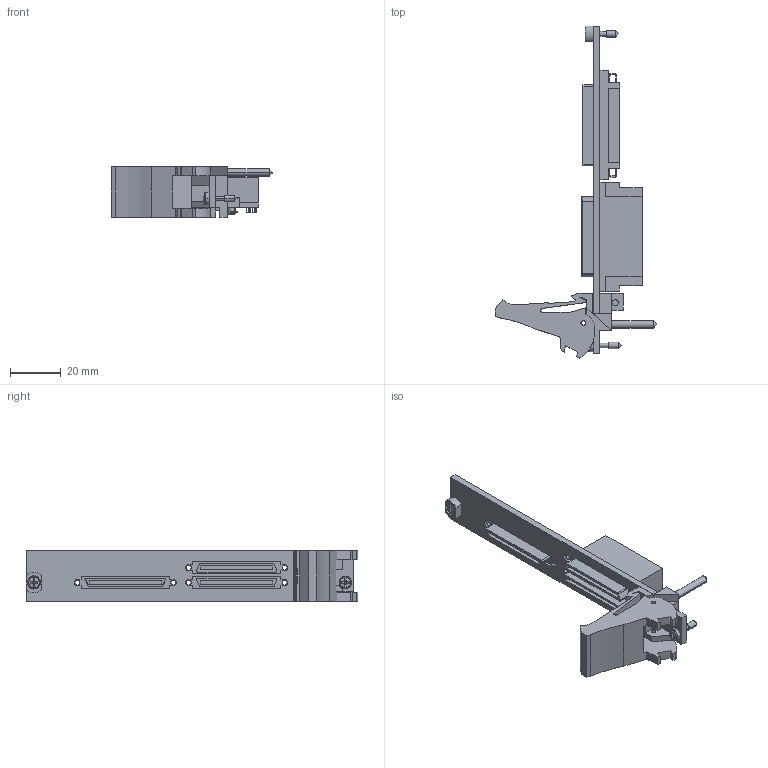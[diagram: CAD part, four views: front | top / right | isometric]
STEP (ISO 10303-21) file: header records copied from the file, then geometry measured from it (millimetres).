
FILE_DESCRIPTION((''),'2;1');
FILE_NAME('CU_PXI-7831R_7833R','2011-05-24T',('dkendric'),(''),'PRO/ENGINEER BY PARAMETRIC TECHNOLOGY CORPORATION, 2010230','PRO/ENGINEER BY PARAMETRIC TECHNOLOGY CORPORATION, 2010230','');
FILE_SCHEMA(('CONFIG_CONTROL_DESIGN'));
Length unit declared in the file: inch
Products named in the file (1): CU_PXI-7831R_7833R
Bounding box: 63.53 x 130.5 x 20.02 mm (x, y, z)
Volume: 21859.7 mm3; surface area: 17490.5 mm2
Topology: 27 solids, 27 shells, 529 faces, 1320 edges, 857 vertices
Faces by surface type: plane 352, cylinder 153, cone 10, torus 8, sphere 6
Entity records: 15679 total; most frequent: CARTESIAN_POINT 2910, DIRECTION 2660, ORIENTED_EDGE 2616, EDGE_CURVE 1308, VECTOR 924, LINE 924, AXIS2_PLACEMENT_3D 868, VERTEX_POINT 853
